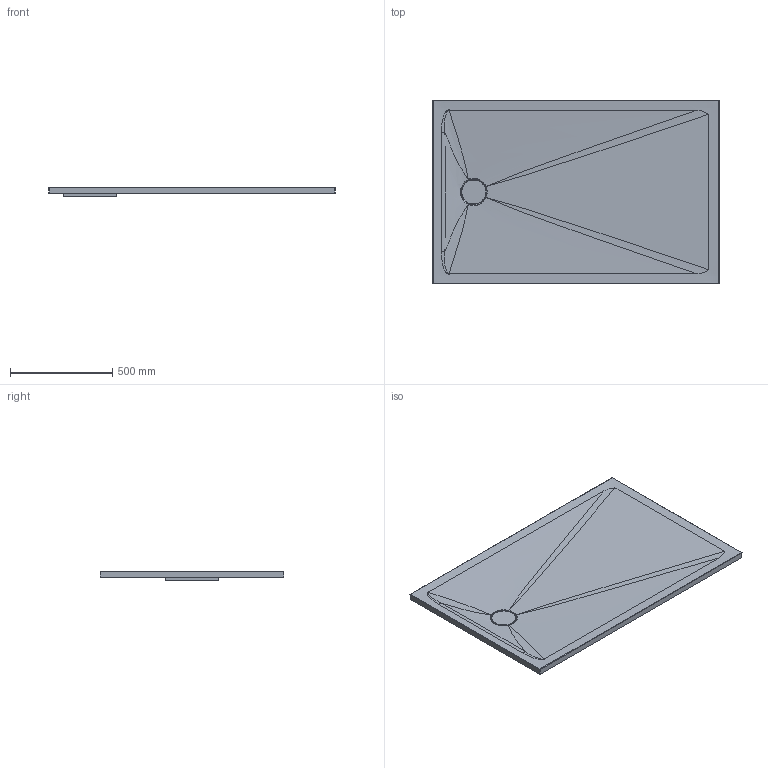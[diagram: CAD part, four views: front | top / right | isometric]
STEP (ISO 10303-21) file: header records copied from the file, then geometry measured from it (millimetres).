
FILE_DESCRIPTION (( 'STEP AP214' ), '1' );
FILE_NAME ('ARON 140x90.STEP', '2024-05-13T11:35:03', ( '' ), ( '' ), 'SwSTEP 2.0', 'SolidWorks 2021', '' );
FILE_SCHEMA (( 'AUTOMOTIVE_DESIGN' ));
Length unit declared in the file: millimetre
Products named in the file (1): ARON 140x90
Bounding box: 1400 x 900 x 48 mm (x, y, z)
Volume: 31185694.5 mm3; surface area: 2696093.2 mm2
Topology: 2 solids, 2 shells, 75 faces, 170 edges, 101 vertices
Faces by surface type: bspline 39, cylinder 19, plane 17
Full cylindrical faces by diameter (mm): 9 x3, 90 x1, 119 x1
Entity records: 12079 total; most frequent: CARTESIAN_POINT 10695, ORIENTED_EDGE 316, DIRECTION 166, EDGE_CURVE 158, VERTEX_POINT 101, B_SPLINE_CURVE_WITH_KNOTS 93, EDGE_LOOP 91, FACE_OUTER_BOUND 83
